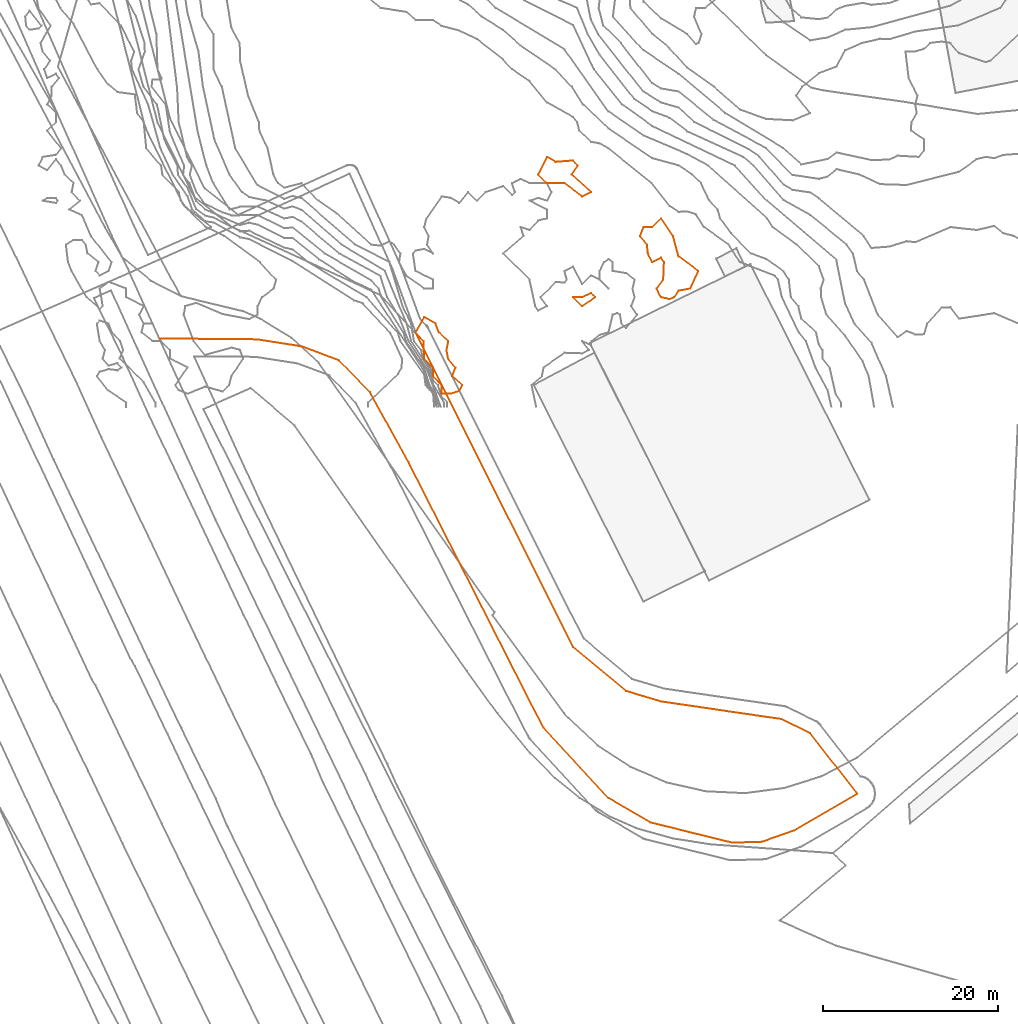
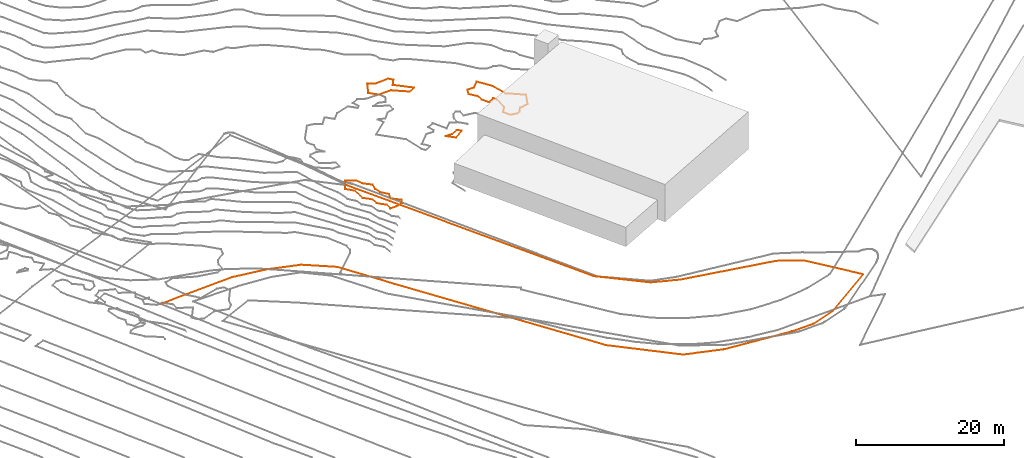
# Not in any storey, part 104 of 419: 6 proxies.
"""IFC2X3 model written with IfcOpenShell, lengths in metres."""

from ifc_helpers import new_model, entity, si_unit, frame, origin_with_axes, place, context, subcontext, project, element, save


model = new_model("IFC2X3")

# Units and contexts
model_context = context("Model", 3, precision=1e-05, world=origin_with_axes())
body_context = subcontext(model_context, "Body", "Model", "MODEL_VIEW")
ifc_project = project(units=[si_unit("AREAUNIT", "SQUARE_METRE"), si_unit("LENGTHUNIT", "METRE")], contexts=[model_context])

# Proxies
proxy_1_placement = place(None, frame((148.1920204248, 6.6976909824, 10.7), z_axis=(0.0, 0.0, 1.0), x_axis=(1.0, 0.0, 0.0)))
element("IfcBuildingElementProxy", 1, at=proxy_1_placement, Name="Route 3", ObjectType="NOTDEFINED", context=body_context, shape_type="GeometricCurveSet", body=[
    entity("IfcGeometricCurveSet", [entity("IfcPolyline", [entity("IfcCartesianPoint", [50.3, -52.3999999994, -0.5]), entity("IfcCartesianPoint", [44.9, -45.5, -0.5]), entity("IfcCartesianPoint", [41.6, -43.8999999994, -0.4]), entity("IfcCartesianPoint", [27.9, -41.8999999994, 0.1]), entity("IfcCartesianPoint", [23.9, -40.7000000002, 0.3]), entity("IfcCartesianPoint", [17.9, -35.7000000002, 0.4]), entity("IfcCartesianPoint", [0.0, 0.0, 0.0])])]),
])
proxy_2_placement = place(None, frame((118.8920204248, 6.1976909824, 1.7), z_axis=(0.0, 0.0, 1.0), x_axis=(1.0, 0.0, 0.0)))
element("IfcBuildingElementProxy", 2, at=proxy_2_placement, Name="Route 9", ObjectType="NOTDEFINED", context=body_context, shape_type="GeometricCurveSet", body=[
    entity("IfcGeometricCurveSet", [entity("IfcPolyline", [entity("IfcCartesianPoint", [79.6, -51.8999999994, 8.5]), entity("IfcCartesianPoint", [72.3999999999, -56.0999999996, 7.5]), entity("IfcCartesianPoint", [68.7, -57.3999999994, 7.5]), entity("IfcCartesianPoint", [65.2999999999, -57.5, 7.5]), entity("IfcCartesianPoint", [56.0, -55.2000000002, 6.4]), entity("IfcCartesianPoint", [51.2, -52.3999999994, 5.5]), entity("IfcCartesianPoint", [43.7999999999, -44.3999999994, 4.8]), entity("IfcCartesianPoint", [28.3999999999, -14.0999999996, 1.9]), entity("IfcCartesianPoint", [24.0, -6.0999999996, 1.4]), entity("IfcCartesianPoint", [20.5, -2.5, 0.8]), entity("IfcCartesianPoint", [16.2, -0.8999999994, 0.6]), entity("IfcCartesianPoint", [11.1, -0.0999999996, 0.6]), entity("IfcCartesianPoint", [0.0, 0.0, 0.0])])]),
])
proxy_3_placement = place(None, frame((162.0920704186, 24.8976909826, 10.0), z_axis=(0.0, 0.0, 1.0), x_axis=(1.0, 0.0, 0.0)))
element("IfcBuildingElementProxy", 3, at=proxy_3_placement, Name="Contour 10.0 m", ObjectType="NOTDEFINED", context=body_context, shape_type="GeometricCurveSet", body=[
    entity("IfcGeometricCurveSet", [entity("IfcPolyline", [entity("IfcCartesianPoint", [4.9999500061, -2.4999500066, 0.0]), entity("IfcCartesianPoint", [5.9998500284, -2.0, 0.0]), entity("IfcCartesianPoint", [3.7999461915, 0.0, 0.0]), entity("IfcCartesianPoint", [4.4999333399, 1.0, 0.0]), entity("IfcCartesianPoint", [3.9999500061, 1.5999923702, 0.0]), entity("IfcCartesianPoint", [1.9999500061, 1.4444432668, 0.0]), entity("IfcCartesianPoint", [0.9999500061, 1.9999000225, 0.0]), entity("IfcCartesianPoint", [0.0, 0.0, 0.0]), entity("IfcCartesianPoint", [0.9999500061, -0.9999500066, 0.0]), entity("IfcCartesianPoint", [2.9999500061, -0.9999750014, 0.0]), entity("IfcCartesianPoint", [4.9999500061, -2.4999500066, 0.0])])]),
])
proxy_4_placement = place(None, frame((173.6920127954, 17.8976909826, 10.0), z_axis=(0.0, 0.0, 1.0), x_axis=(1.0, 0.0, 0.0)))
element("IfcBuildingElementProxy", 4, at=proxy_4_placement, Name="Contour 10.0 m", ObjectType="NOTDEFINED", context=body_context, shape_type="GeometricCurveSet", body=[
    entity("IfcGeometricCurveSet", [entity("IfcPolyline", [entity("IfcCartesianPoint", [3.4000076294, -7.2142847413, 0.0]), entity("IfcCartesianPoint", [3.8999909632, -7.0, 0.0]), entity("IfcCartesianPoint", [4.4000076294, -6.2500059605, 0.0]), entity("IfcCartesianPoint", [5.7333409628, -6.0, 0.0]), entity("IfcCartesianPoint", [6.6500135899, -4.0, 0.0]), entity("IfcCartesianPoint", [4.4000076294, -2.333333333, 0.0]), entity("IfcCartesianPoint", [3.7750046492, 0.0, 0.0]), entity("IfcCartesianPoint", [2.4000076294, 1.9999666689, 0.0]), entity("IfcCartesianPoint", [1.4000076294, 0.9999500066, 0.0]), entity("IfcCartesianPoint", [0.4000076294, 0.9999500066, 0.0]), entity("IfcCartesianPoint", [0.0, 0.0, 0.0]), entity("IfcCartesianPoint", [0.8000152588, -1.0, 0.0]), entity("IfcCartesianPoint", [0.9000576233, -2.0, 0.0]), entity("IfcCartesianPoint", [1.4000076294, -2.9999000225, 0.0]), entity("IfcCartesianPoint", [2.4000076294, -2.4999750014, 0.0]), entity("IfcCartesianPoint", [2.7333462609, -3.0, 0.0]), entity("IfcCartesianPoint", [2.6500135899, -5.0, 0.0]), entity("IfcCartesianPoint", [1.9000576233, -6.0, 0.0]), entity("IfcCartesianPoint", [2.4000409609, -7.0, 0.0]), entity("IfcCartesianPoint", [3.4000076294, -7.2142847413, 0.0])])]),
])
proxy_5_placement = place(None, frame((166.0920204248, 10.89779096, 10.0), z_axis=(0.0, 0.0, 1.0), x_axis=(1.0, 0.0, 0.0)))
element("IfcBuildingElementProxy", 5, at=proxy_5_placement, Name="Contour 10.0 m", ObjectType="NOTDEFINED", context=body_context, shape_type="GeometricCurveSet", body=[
    entity("IfcGeometricCurveSet", [entity("IfcPolyline", [entity("IfcCartesianPoint", [1.0000499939, -1.0000999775, 0.0]), entity("IfcCartesianPoint", [0.0, 0.0, 0.0]), entity("IfcCartesianPoint", [1.0, -4.99841e-05, 0.0]), entity("IfcCartesianPoint", [2.0, 0.4999500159, 0.0]), entity("IfcCartesianPoint", [2.5000499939, -9.99775e-05, 0.0]), entity("IfcCartesianPoint", [1.0000499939, -1.0000999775, 0.0])])]),
])
proxy_6_placement = place(None, frame((148.0885360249, 6.8976909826, 10.0), z_axis=(0.0, 0.0, 1.0), x_axis=(1.0, 0.0, 0.0)))
element("IfcBuildingElementProxy", 6, at=proxy_6_placement, Name="Contour 10.0 m", ObjectType="NOTDEFINED", context=body_context, shape_type="GeometricCurveSet", body=[
    entity("IfcGeometricCurveSet", [entity("IfcPolyline", [entity("IfcCartesianPoint", [4.0035843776, -7.0, 0.0]), entity("IfcCartesianPoint", [3.0034843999, -7.0074075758, 0.0]), entity("IfcCartesianPoint", [2.9949005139, -6.0, 0.0]), entity("IfcCartesianPoint", [2.0034843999, -5.0085838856, 0.0]), entity("IfcCartesianPoint", [1.9908898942, -4.0, 0.0]), entity("IfcCartesianPoint", [0.9964791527, -3.0, 0.0]), entity("IfcCartesianPoint", [0.9034840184, -1.0, 0.0]), entity("IfcCartesianPoint", [0.0, 0.0, 0.0]), entity("IfcCartesianPoint", [1.0034843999, 1.7499940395, 0.0]), entity("IfcCartesianPoint", [2.2892025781, 1.0, 0.0]), entity("IfcCartesianPoint", [2.6701457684, 0.0, 0.0]), entity("IfcCartesianPoint", [3.7368173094, -1.0, 0.0]), entity("IfcCartesianPoint", [3.5419431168, -2.0, 0.0]), entity("IfcCartesianPoint", [3.7177662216, -3.0, 0.0]), entity("IfcCartesianPoint", [4.5489397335, -4.0, 0.0]), entity("IfcCartesianPoint", [4.2034882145, -5.0, 0.0]), entity("IfcCartesianPoint", [5.3368230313, -6.0, 0.0]), entity("IfcCartesianPoint", [5.0034843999, -6.666666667, 0.0]), entity("IfcCartesianPoint", [4.0035843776, -7.0, 0.0])])]),
])

save(model, "model.ifc")
